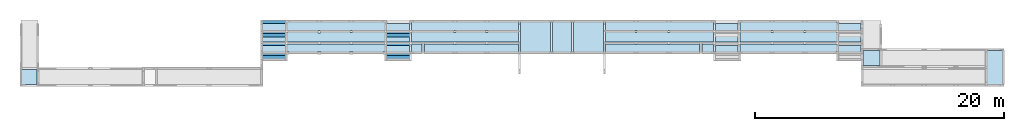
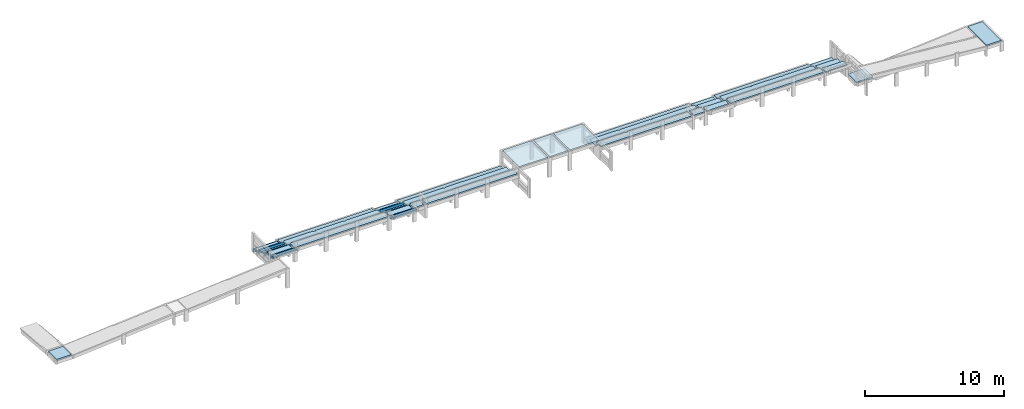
# One storey, part 8 of 9: 32 slabs, 7 stair flights.
"""IFC4 building model written with IfcOpenShell, lengths in centimetres."""

from ifc_helpers import new_model, si_unit, derived_unit, frame, origin_with_axes, place, context, project, spatial, polyline, outline, extrude, faceted_brep, material, element, save


model = new_model("IFC4")

# Units and contexts
model_context = context("Model", 3, precision=1e-05, world=origin_with_axes(), identifier="Body")
ifc_project = project(units=[si_unit("LENGTHUNIT", "METRE", prefix="CENTI"), si_unit("VOLUMEUNIT", "CUBIC_METRE"), si_unit("AREAUNIT", "SQUARE_METRE"), si_unit("POWERUNIT", "WATT"), si_unit("LUMINOUSFLUXUNIT", "LUMEN"), si_unit("ELECTRICCURRENTUNIT", "AMPERE"), si_unit("PRESSUREUNIT", "PASCAL", prefix="KILO"), si_unit("MASSUNIT", "GRAM", prefix="KILO"), si_unit("PLANEANGLEUNIT", "RADIAN"), derived_unit("VOLUMETRICFLOWRATEUNIT", [(si_unit("LENGTHUNIT", "METRE"), 3), (si_unit("TIMEUNIT", "SECOND"), -1)])], contexts=[model_context])

# Site, building, storey
site_placement = place(None, origin_with_axes())
site = spatial("IfcSite", under=ifc_project, at=site_placement)
building_placement = place(site_placement, frame((0.0, 0.0, -170.0)))
building = spatial("IfcBuilding", under=site, at=building_placement)
placement = place(building_placement, origin_with_axes())
storey_placement = place(placement, frame((0.0, 0.0, 170.0), z_axis=(0.0, 0.0, 1.0), x_axis=(1.0, 0.0, 0.0)))
storey = spatial("IfcBuildingStorey", under=building, at=storey_placement, Name="Arquibancada", CompositionType="ELEMENT", Elevation=0.0)

# Slabs
ifc_material = material(Name="Concreto")
slab_1_placement = place(storey_placement, frame((2202.0595, 258.0, 0.0), z_axis=(0.0, 0.0, 1.0), x_axis=(1.0, 0.0, 0.0)))
element("IfcSlab", 1, at=slab_1_placement, inside=storey, material=ifc_material, Name="L1", PredefinedType="FLOOR", context=model_context, shape_type="SolidModel", body=[
    extrude(outline(polyline([(121.499, 120.0), (-121.499, 120.0), (-121.5, -120.0), (121.499, -120.0), (121.499, 120.0), (121.499, 120.0)])), frame((0.0005, 0.0, -11.0), z_axis=(0.0, 0.0, 1.0), x_axis=(1.0, 0.0, 0.0)), (0.0, 0.0, 1.0), 11.0),
])
slab_2_placement = place(storey_placement, frame((2414.0595, 258.0, 0.0), z_axis=(0.0, 0.0, 1.0), x_axis=(1.0, 0.0, 0.0)))
element("IfcSlab", 2, at=slab_2_placement, inside=storey, material=ifc_material, Name="L2", PredefinedType="FLOOR", context=model_context, shape_type="SolidModel", body=[
    extrude(outline(polyline([(76.499, 120.0), (-76.5, 120.0), (-76.5, -120.0), (76.499, -120.0), (76.499, 120.0), (76.499, 120.0)])), frame((0.0005, 0.0, -11.0), z_axis=(0.0, 0.0, 1.0), x_axis=(1.0, 0.0, 0.0)), (0.0, 0.0, 1.0), 11.0),
])
slab_3_placement = place(storey_placement, frame((2626.06, 258.0, 0.0), z_axis=(0.0, 0.0, 1.0), x_axis=(1.0, 0.0, 0.0)))
element("IfcSlab", 3, at=slab_3_placement, inside=storey, material=ifc_material, Name="L3", PredefinedType="FLOOR", context=model_context, shape_type="SolidModel", body=[
    extrude(outline(polyline([(121.5, -120.0), (121.5, 120.0), (-121.5, 120.0), (-121.5, -120.0), (121.5, -120.0), (121.5, -120.0)])), frame((0.0, 0.0, -11.0), z_axis=(0.0, 0.0, 1.0), x_axis=(1.0, 0.0, 0.0)), (0.0, 0.0, 1.0), 11.0),
])
slab_4_placement = place(storey_placement, frame((3139.56, 170.5, -56.0), z_axis=(0.0, 0.0, 1.0), x_axis=(1.0, 0.0, 0.0)))
element("IfcSlab", 4, at=slab_4_placement, inside=storey, material=ifc_material, Name="LE10", PredefinedType="LANDING", context=model_context, shape_type="SolidModel", body=[
    extrude(outline(polyline([(378.0, 32.499), (139.889, 32.499), (139.889, 27.5), (120.889, 27.5), (120.889, 32.5), (-122.05, 32.5), (-122.049, 27.5), (-141.049, 27.5), (-141.05, 32.5), (-378.0, 32.499), (-378.0, -32.5), (377.999, -32.5), (378.0, 32.499), (378.0, 32.499)])), frame((0.0, 0.0, -11.0), z_axis=(0.0, 0.0, 1.0), x_axis=(1.0, 0.0, 0.0)), (0.0, 0.0, 1.0), 11.0),
])
slab_5_placement = place(storey_placement, frame((4895.6195, 89.5, -151.0), z_axis=(0.0, 0.0, 1.0), x_axis=(1.0, 0.0, 0.0)))
element("IfcSlab", 5, at=slab_5_placement, inside=storey, material=ifc_material, Name="LE12", PredefinedType="LANDING", context=model_context, shape_type="SolidModel", body=[
    extrude(outline(polyline([(68.499, 61.0), (-68.5, 61.0), (-68.5, -61.0), (68.499, -61.0), (68.499, 61.0), (68.499, 61.0)])), frame((0.0005, 0.0, -11.0), z_axis=(0.0, 0.0, 1.0), x_axis=(1.0, 0.0, 0.0)), (0.0, 0.0, 1.0), 11.0),
])
slab_6_placement = place(storey_placement, frame((105.5, 164.0, -56.0), z_axis=(0.0, 0.0, 1.0), x_axis=(1.0, 0.0, 0.0)))
element("IfcSlab", 6, at=slab_6_placement, inside=storey, material=ifc_material, Name="LE19", PredefinedType="LANDING", context=model_context, shape_type="SolidModel", body=[
    extrude(outline(polyline([(91.0, 26.0), (-91.0, 26.0), (-91.0, -26.0), (91.0, -26.0), (91.0, 26.0), (91.0, 26.0)])), frame((0.0, 0.0, -11.0), z_axis=(0.0, 0.0, 1.0), x_axis=(1.0, 0.0, 0.0)), (0.0, 0.0, 1.0), 11.0),
])
slab_7_placement = place(storey_placement, frame((-1856.0, -61.7495, -138.0), z_axis=(0.0, 0.0, 1.0), x_axis=(1.0, 0.0, 0.0)))
element("IfcSlab", 7, at=slab_7_placement, inside=storey, material=ifc_material, Name="LE2", PredefinedType="LANDING", context=model_context, shape_type="SolidModel", body=[
    extrude(outline(polyline([(61.5, 61.249534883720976), (-61.5, 61.249534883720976), (-61.5, -60.80046511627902), (61.5, -61.24946511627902), (61.5, 61.249534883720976), (61.5, 61.249534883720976)])), frame((0.0, -3.4883720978e-05, -11.0), z_axis=(0.0, 0.0, 1.0), x_axis=(1.0, 0.0, 0.0)), (0.0, 0.0, 1.0), 11.0),
])
slab_8_placement = place(storey_placement, frame((1100.0345, 164.0, -56.0), z_axis=(0.0, 0.0, 1.0), x_axis=(1.0, 0.0, 0.0)))
element("IfcSlab", 8, at=slab_8_placement, inside=storey, material=ifc_material, Name="LE21", PredefinedType="LANDING", context=model_context, shape_type="SolidModel", body=[
    extrude(outline(polyline([(91.504, 26.0), (-91.505, 26.0), (-91.505, -26.0), (91.504, -26.0), (91.504, 26.0), (91.504, 26.0)])), frame((0.0005, 0.0, -11.0), z_axis=(0.0, 0.0, 1.0), x_axis=(1.0, 0.0, 0.0)), (0.0, 0.0, 1.0), 11.0),
])
slab_9_placement = place(storey_placement, frame((3583.825, 170.5, -56.0), z_axis=(0.0, 0.0, 1.0), x_axis=(1.0, 0.0, 0.0)))
element("IfcSlab", 9, at=slab_9_placement, inside=storey, material=ifc_material, Name="LE23", PredefinedType="LANDING", context=model_context, shape_type="SolidModel", body=[
    extrude(outline(polyline([(46.264, -32.5), (46.265, 27.5), (41.265, 27.5), (41.264, 32.5), (-46.265, 32.5), (-46.265, -32.499), (46.264, -32.5), (46.264, -32.5)])), frame((0.0, 0.0, -11.0), z_axis=(0.0, 0.0, 1.0), x_axis=(1.0, 0.0, 0.0)), (0.0, 0.0, 1.0), 11.0),
])
slab_10_placement = place(storey_placement, frame((3735.5905, 164.0, -56.0), z_axis=(0.0, 0.0, 1.0), x_axis=(1.0, 0.0, 0.0)))
element("IfcSlab", 10, at=slab_10_placement, inside=storey, material=ifc_material, Name="LE24", PredefinedType="LANDING", context=model_context, shape_type="SolidModel", body=[
    extrude(outline(polyline([(91.5, 26.0), (-91.499, 26.0), (-91.499, -26.0), (91.5, -26.0), (91.5, 26.0), (91.5, 26.0)])), frame((-0.0005, 0.0, -11.0), z_axis=(0.0, 0.0, 1.0), x_axis=(1.0, 0.0, 0.0)), (0.0, 0.0, 1.0), 11.0),
])
slab_11_placement = place(storey_placement, frame((4229.355, 170.5, -56.0), z_axis=(0.0, 0.0, 1.0), x_axis=(1.0, 0.0, 0.0)))
element("IfcSlab", 11, at=slab_11_placement, inside=storey, material=ifc_material, Name="LE25", PredefinedType="LANDING", context=model_context, shape_type="SolidModel", body=[
    extrude(outline(polyline([(383.264, -30.0), (388.265, -30.0), (388.264, 27.5), (383.264, 27.5), (383.264, 32.5), (140.314, 32.5), (140.315, 27.5), (121.315, 27.5), (121.314, 32.499), (-121.315, 32.499), (-121.315, 27.5), (-140.315, 27.5), (-140.315, 32.5), (-383.265, 32.5), (-383.264, 27.5), (-388.264, 27.5), (-388.265, -32.5), (383.265, -32.5), (383.264, -30.0), (383.264, -30.0)])), frame((0.0, 0.0, -11.0), z_axis=(0.0, 0.0, 1.0), x_axis=(1.0, 0.0, 0.0)), (0.0, 0.0, 1.0), 11.0),
])
slab_12_placement = place(storey_placement, frame((4722.3695, 164.0645, -56.0), z_axis=(0.0, 0.0, 1.0), x_axis=(1.0, 0.0, 0.0)))
element("IfcSlab", 12, at=slab_12_placement, inside=storey, material=ifc_material, Name="LE26", PredefinedType="LANDING", context=model_context, shape_type="SolidModel", body=[
    extrude(outline(polyline([(90.749, 26.064), (-90.75, 26.064), (-90.749, -26.065), (90.749, -26.065), (90.749, 26.064), (90.749, 26.064)])), frame((0.0005, 0.0005, -11.0), z_axis=(0.0, 0.0, 1.0), x_axis=(1.0, 0.0, 0.0)), (0.0, 0.0, 1.0), 11.0),
])
slab_13_placement = place(storey_placement, frame((602.515, 170.5, -56.0), z_axis=(0.0, 0.0, 1.0), x_axis=(1.0, 0.0, 0.0)))
element("IfcSlab", 13, at=slab_13_placement, inside=storey, material=ifc_material, Name="LE29", PredefinedType="LANDING", context=model_context, shape_type="SolidModel", body=[
    extrude(outline(polyline([(392.014, -32.5), (392.015, 27.5), (387.015, 27.5), (387.014, 32.5), (131.125, 32.5), (131.125, 27.5), (112.124, 27.5), (112.125, 32.499), (-124.694, 32.499), (-124.695, 26.5), (-144.695, 26.5), (-144.694, 32.499), (-387.015, 32.5), (-387.015, 27.5), (-392.015, 27.5), (-392.015, -32.5), (392.014, -32.5), (392.014, -32.5)])), frame((0.0, 0.0, -11.0), z_axis=(0.0, 0.0, 1.0), x_axis=(1.0, 0.0, 0.0)), (0.0, 0.0, 1.0), 11.0),
])
slab_14_placement = place(storey_placement, frame((1248.0495, 170.5, -56.0), z_axis=(0.0, 0.0, 1.0), x_axis=(1.0, 0.0, 0.0)))
element("IfcSlab", 14, at=slab_14_placement, inside=storey, material=ifc_material, Name="LE30", PredefinedType="LANDING", context=model_context, shape_type="SolidModel", body=[
    extrude(outline(polyline([(42.509, -32.499), (42.509, 32.5), (-37.519, 32.5), (-37.52, 27.5), (-42.51, 27.5), (-42.509, -32.5), (42.509, -32.499), (42.509, -32.499)])), frame((0.0005, 0.0, -11.0), z_axis=(0.0, 0.0, 1.0), x_axis=(1.0, 0.0, 0.0)), (0.0, 0.0, 1.0), 11.0),
])
slab_15_placement = place(storey_placement, frame((105.5, 251.0, -94.0), z_axis=(0.0, 0.0, 1.0), x_axis=(1.0, 0.0, 0.0)))
element("IfcSlab", 15, at=slab_15_placement, inside=storey, material=ifc_material, Name="LE32", PredefinedType="LANDING", context=model_context, shape_type="SolidModel", body=[
    extrude(outline(polyline([(91.0, 34.0), (-91.0, 34.0), (-91.0, -34.0), (91.0, -34.0), (91.0, 34.0), (91.0, 34.0)])), frame((0.0, 0.0, -11.0), z_axis=(0.0, 0.0, 1.0), x_axis=(1.0, 0.0, 0.0)), (0.0, 0.0, 1.0), 11.0),
])
slab_16_placement = place(storey_placement, frame((1636.045, 257.5, -94.0), z_axis=(0.0, 0.0, 1.0), x_axis=(1.0, 0.0, 0.0)))
element("IfcSlab", 16, at=slab_16_placement, inside=storey, material=ifc_material, Name="LE35", PredefinedType="LANDING", context=model_context, shape_type="SolidModel", body=[
    extrude(outline(polyline([(430.514, 40.5), (183.695, 40.5), (183.695, 35.5), (164.695, 35.5), (164.695, 40.5), (-72.624, 40.499), (-72.624, 35.5), (-91.624, 35.5), (-91.624, 40.5), (-425.514, 40.499), (-425.515, 35.5), (-430.514, 35.5), (-430.514, -40.499), (430.514, -40.5), (430.514, 40.5), (430.514, 40.5)])), frame((0.0, 0.0, -11.0), z_axis=(0.0, 0.0, 1.0), x_axis=(1.0, 0.0, 0.0)), (0.0, 0.0, 1.0), 11.0),
])
slab_17_placement = place(storey_placement, frame((1100.0295, 251.0, -94.0), z_axis=(0.0, 0.0, 1.0), x_axis=(1.0, 0.0, 0.0)))
element("IfcSlab", 17, at=slab_17_placement, inside=storey, material=ifc_material, Name="LE36", PredefinedType="LANDING", context=model_context, shape_type="SolidModel", body=[
    extrude(outline(polyline([(91.499, 34.0), (-91.5, 34.0), (-91.5, -34.0), (91.499, -34.0), (91.499, 34.0), (91.499, 34.0)])), frame((0.0005, 0.0, -11.0), z_axis=(0.0, 0.0, 1.0), x_axis=(1.0, 0.0, 0.0)), (0.0, 0.0, 1.0), 11.0),
])
slab_18_placement = place(storey_placement, frame((4229.355, 257.5, -94.0), z_axis=(0.0, 0.0, 1.0), x_axis=(1.0, 0.0, 0.0)))
element("IfcSlab", 18, at=slab_18_placement, inside=storey, material=ifc_material, Name="LE37", PredefinedType="LANDING", context=model_context, shape_type="SolidModel", body=[
    extrude(outline(polyline([(388.265, -40.5), (388.265, 35.5), (383.264, 35.5), (383.265, 40.5), (140.314, 40.5), (140.315, 35.5), (121.315, 35.5), (121.314, 40.499), (-121.314, 40.5), (-121.315, 35.5), (-140.315, 35.5), (-140.314, 40.499), (-383.265, 40.5), (-383.264, 35.5), (-388.265, 35.5), (-388.264, -40.5), (388.265, -40.5), (388.265, -40.5)])), frame((0.0, 0.0, -11.0), z_axis=(0.0, 0.0, 1.0), x_axis=(1.0, 0.0, 0.0)), (0.0, 0.0, 1.0), 11.0),
])
slab_19_placement = place(storey_placement, frame((3195.825, 257.5, -94.0), z_axis=(0.0, 0.0, 1.0), x_axis=(1.0, 0.0, 0.0)))
element("IfcSlab", 19, at=slab_19_placement, inside=storey, material=ifc_material, Name="LE38", PredefinedType="LANDING", context=model_context, shape_type="SolidModel", body=[
    extrude(outline(polyline([(434.265, 35.5), (429.265, 35.5), (429.264, 40.499), (83.624, 40.5), (83.624, 35.5), (64.624, 35.5), (64.624, 40.5), (-178.314, 40.499), (-178.314, 35.5), (-197.314, 35.5), (-197.314, 40.5), (-434.265, 40.5), (-434.265, -40.5), (434.265, -40.5), (434.265, 35.5), (434.265, 35.5)])), frame((0.0, 0.0, -11.0), z_axis=(0.0, 0.0, 1.0), x_axis=(1.0, 0.0, 0.0)), (0.0, 0.0, 1.0), 11.0),
])
slab_20_placement = place(storey_placement, frame((3735.5905, 251.0, -94.0), z_axis=(0.0, 0.0, 1.0), x_axis=(1.0, 0.0, 0.0)))
element("IfcSlab", 20, at=slab_20_placement, inside=storey, material=ifc_material, Name="LE39", PredefinedType="LANDING", context=model_context, shape_type="SolidModel", body=[
    extrude(outline(polyline([(91.5, 34.0), (-91.499, 34.0), (-91.499, -34.0), (91.5, -34.0), (91.5, 34.0), (91.5, 34.0)])), frame((-0.0005, 0.0, -11.0), z_axis=(0.0, 0.0, 1.0), x_axis=(1.0, 0.0, 0.0)), (0.0, 0.0, 1.0), 11.0),
])
slab_21_placement = place(storey_placement, frame((4722.3695, 251.0, -94.0), z_axis=(0.0, 0.0, 1.0), x_axis=(1.0, 0.0, 0.0)))
element("IfcSlab", 21, at=slab_21_placement, inside=storey, material=ifc_material, Name="LE40", PredefinedType="LANDING", context=model_context, shape_type="SolidModel", body=[
    extrude(outline(polyline([(90.749, 34.0), (-90.75, 34.0), (-90.75, -34.0), (90.749, -34.0), (90.749, 34.0), (90.749, 34.0)])), frame((0.0005, 0.0, -11.0), z_axis=(0.0, 0.0, 1.0), x_axis=(1.0, 0.0, 0.0)), (0.0, 0.0, 1.0), 11.0),
])
slab_22_placement = place(storey_placement, frame((3195.8255, 345.0, -132.0), z_axis=(0.0, 0.0, 1.0), x_axis=(1.0, 0.0, 0.0)))
element("IfcSlab", 22, at=slab_22_placement, inside=storey, material=ifc_material, Name="LE44", PredefinedType="LANDING", context=model_context, shape_type="SolidModel", body=[
    extrude(outline(polyline([(434.265, -33.0), (434.264, 33.0), (-434.264, 32.999), (-434.264, -32.999), (434.265, -33.0), (434.265, -33.0)])), frame((-0.0005, 0.0, -11.0), z_axis=(0.0, 0.0, 1.0), x_axis=(1.0, 0.0, 0.0)), (0.0, 0.0, 1.0), 11.0),
])
slab_23_placement = place(storey_placement, frame((4229.3545, 345.0, -132.0), z_axis=(0.0, 0.0, 1.0), x_axis=(1.0, 0.0, 0.0)))
element("IfcSlab", 23, at=slab_23_placement, inside=storey, material=ifc_material, Name="LE46", PredefinedType="LANDING", context=model_context, shape_type="SolidModel", body=[
    extrude(outline(polyline([(388.264, 30.5), (383.264, 30.5), (383.264, 32.999), (-388.265, 33.0), (-388.264, -33.0), (388.264, -33.0), (388.264, 30.5), (388.264, 30.5)])), frame((0.0005, 0.0, -11.0), z_axis=(0.0, 0.0, 1.0), x_axis=(1.0, 0.0, 0.0)), (0.0, 0.0, 1.0), 11.0),
])
slab_24_placement = place(storey_placement, frame((602.515, 345.0, -132.0), z_axis=(0.0, 0.0, 1.0), x_axis=(1.0, 0.0, 0.0)))
element("IfcSlab", 24, at=slab_24_placement, inside=storey, material=ifc_material, Name="LE47", PredefinedType="LANDING", context=model_context, shape_type="SolidModel", body=[
    extrude(outline(polyline([(392.015, -33.0), (392.014, 33.0), (-392.015, 33.0), (-392.015, -33.0), (392.015, -33.0), (392.015, -33.0)])), frame((0.0, 0.0, -11.0), z_axis=(0.0, 0.0, 1.0), x_axis=(1.0, 0.0, 0.0)), (0.0, 0.0, 1.0), 11.0),
])
slab_25_placement = place(storey_placement, frame((1636.045, 345.0, -132.0), z_axis=(0.0, 0.0, 1.0), x_axis=(1.0, 0.0, 0.0)))
element("IfcSlab", 25, at=slab_25_placement, inside=storey, material=ifc_material, Name="LE49", PredefinedType="LANDING", context=model_context, shape_type="SolidModel", body=[
    extrude(outline(polyline([(430.515, -33.0), (430.515, 32.999), (-430.515, 33.0), (-430.515, -33.0), (430.515, -33.0), (430.515, -33.0)])), frame((0.0, 0.0, -11.0), z_axis=(0.0, 0.0, 1.0), x_axis=(1.0, 0.0, 0.0)), (0.0, 0.0, 1.0), 11.0),
])
slab_26_placement = place(storey_placement, frame((602.515, 257.5, -94.0), z_axis=(0.0, 0.0, 1.0), x_axis=(1.0, 0.0, 0.0)))
element("IfcSlab", 26, at=slab_26_placement, inside=storey, material=ifc_material, Name="LE5", PredefinedType="LANDING", context=model_context, shape_type="SolidModel", body=[
    extrude(outline(polyline([(392.015, 35.5), (387.015, 35.5), (387.015, 40.5), (131.125, 40.5), (131.125, 35.5), (112.124, 35.5), (112.125, 40.5), (-124.695, 40.5), (-124.695, 34.5), (-144.695, 34.5), (-144.695, 40.499), (-387.015, 40.5), (-387.015, 35.5), (-392.015, 35.5), (-392.015, -40.5), (392.015, -40.5), (392.015, 35.5), (392.015, 35.5)])), frame((0.0, 0.0, -11.0), z_axis=(0.0, 0.0, 1.0), x_axis=(1.0, 0.0, 0.0)), (0.0, 0.0, 1.0), 11.0),
])
slab_27_placement = place(storey_placement, frame((105.5, 338.5, -132.0), z_axis=(0.0, 0.0, 1.0), x_axis=(1.0, 0.0, 0.0)))
element("IfcSlab", 27, at=slab_27_placement, inside=storey, material=ifc_material, Name="LE50", PredefinedType="LANDING", context=model_context, shape_type="SolidModel", body=[
    extrude(outline(polyline([(91.0, 26.5), (-91.0, 26.5), (-91.0, -26.5), (91.0, -26.5), (91.0, 26.5), (91.0, 26.5)])), frame((0.0, 0.0, -11.0), z_axis=(0.0, 0.0, 1.0), x_axis=(1.0, 0.0, 0.0)), (0.0, 0.0, 1.0), 11.0),
])
slab_28_placement = place(storey_placement, frame((1100.0295, 338.5, -132.0), z_axis=(0.0, 0.0, 1.0), x_axis=(1.0, 0.0, 0.0)))
element("IfcSlab", 28, at=slab_28_placement, inside=storey, material=ifc_material, Name="LE52", PredefinedType="LANDING", context=model_context, shape_type="SolidModel", body=[
    extrude(outline(polyline([(91.499, 26.5), (-91.5, 26.5), (-91.5, -26.5), (91.499, -26.5), (91.499, 26.5), (91.499, 26.5)])), frame((0.0005, 0.0, -11.0), z_axis=(0.0, 0.0, 1.0), x_axis=(1.0, 0.0, 0.0)), (0.0, 0.0, 1.0), 11.0),
])
slab_29_placement = place(storey_placement, frame((3735.5905, 338.5, -132.0), z_axis=(0.0, 0.0, 1.0), x_axis=(1.0, 0.0, 0.0)))
element("IfcSlab", 29, at=slab_29_placement, inside=storey, material=ifc_material, Name="LE54", PredefinedType="LANDING", context=model_context, shape_type="SolidModel", body=[
    extrude(outline(polyline([(91.5, 26.5), (-91.499, 26.5), (-91.499, -26.5), (91.5, -26.5), (91.5, 26.5), (91.5, 26.5)])), frame((-0.0005, 0.0, -11.0), z_axis=(0.0, 0.0, 1.0), x_axis=(1.0, 0.0, 0.0)), (0.0, 0.0, 1.0), 11.0),
])
slab_30_placement = place(storey_placement, frame((4722.37, 338.5, -132.0), z_axis=(0.0, 0.0, 1.0), x_axis=(1.0, 0.0, 0.0)))
element("IfcSlab", 30, at=slab_30_placement, inside=storey, material=ifc_material, Name="LE56", PredefinedType="LANDING", context=model_context, shape_type="SolidModel", body=[
    extrude(outline(polyline([(90.749, -26.5), (90.75, 26.5), (-90.75, 26.5), (-90.75, -26.5), (90.749, -26.5), (90.749, -26.5)])), frame((0.0, 0.0, -11.0), z_axis=(0.0, 0.0, 1.0), x_axis=(1.0, 0.0, 0.0)), (0.0, 0.0, 1.0), 11.0),
])
slab_31_placement = place(storey_placement, frame((5883.1195, 14.0, -82.0), z_axis=(0.0, 0.0, 1.0), x_axis=(1.0, 0.0, 0.0)))
element("IfcSlab", 31, at=slab_31_placement, inside=storey, material=ifc_material, Name="LE7", PredefinedType="LANDING", context=model_context, shape_type="SolidModel", body=[
    extrude(outline(polyline([(60.999, 136.5), (-61.0, 136.5), (-61.0, -136.5), (60.999, -136.5), (60.999, 136.5), (60.999, 136.5)])), frame((0.0005, 0.0, -12.0), z_axis=(0.0, 0.0, 1.0), x_axis=(1.0, 0.0, 0.0)), (0.0, 0.0, 1.0), 12.0),
])
slab_32_placement = place(storey_placement, frame((1688.5595, 170.5, -56.0), z_axis=(0.0, 0.0, 1.0), x_axis=(1.0, 0.0, 0.0)))
element("IfcSlab", 32, at=slab_32_placement, inside=storey, material=ifc_material, Name="LE9", PredefinedType="LANDING", context=model_context, shape_type="SolidModel", body=[
    extrude(outline(polyline([(377.999, 32.499), (131.179, 32.499), (131.18, 27.5), (112.18, 27.5), (112.179, 32.5), (-125.14, 32.5), (-125.139, 27.5), (-144.139, 27.5), (-144.14, 32.499), (-378.0, 32.5), (-378.0, -32.499), (377.999, -32.5), (377.999, 32.499), (377.999, 32.499)])), frame((0.0005, 0.0, -11.0), z_axis=(0.0, 0.0, 1.0), x_axis=(1.0, 0.0, 0.0)), (0.0, 0.0, 1.0), 11.0),
])

# Stair flights
stair_flight_1_placement = place(storey_placement, frame((105.5, 110.0, -36.0), z_axis=(0.0, 0.0, 1.0), x_axis=(1.0, 0.0, 0.0)))
element("IfcStairFlight", 33, at=stair_flight_1_placement, inside=storey, material=ifc_material, Name="LE14", NumberOfRisers=0, NumberOfTreads=0, context=model_context, shape_type="Brep", body=[
    faceted_brep([(98.0, -27.0, 0.0), (98.0, 0.0, 0.0), (-98.0, 0.0, 0.0), (-98.0, -27.0, 0.0), (98.0, 0.0, -29.99878647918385), (98.0, -27.0, -12.998786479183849), (-98.0, -27.0, -12.998786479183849), (-98.0, 0.0, -29.99878647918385), (98.0, -27.0, -12.998786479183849), (98.0, -27.0, 0.0), (-98.0, -27.0, 0.0), (-98.0, -27.0, -12.998786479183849), (98.0, 0.0, 0.0), (98.0, 0.0, -29.99878647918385), (-98.0, 0.0, -29.99878647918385), (-98.0, 0.0, 0.0), (-98.0, 0.0, -29.99878647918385), (-98.0, -27.0, -12.998786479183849), (-98.0, -27.0, 0.0), (-98.0, 0.0, 0.0), (98.0, 0.0, -29.99878647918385), (98.0, 0.0, 0.0), (98.0, -27.0, 0.0), (98.0, -27.0, -12.998786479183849), (98.0, 0.0, -17.0), (98.0, 27.0, -17.0), (-98.0, 27.0, -17.0), (-98.0, 0.0, -17.0), (98.0, 27.0, -46.369156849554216), (98.0, 0.0, -29.99878647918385), (-98.0, 0.0, -29.99878647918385), (-98.0, 27.0, -46.369156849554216), (98.0, 0.0, -29.99878647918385), (98.0, 0.0, -17.0), (-98.0, 0.0, -17.0), (-98.0, 0.0, -29.99878647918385), (98.0, 27.0, -17.0), (98.0, 27.0, -46.369156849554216), (-98.0, 27.0, -46.369156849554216), (-98.0, 27.0, -17.0), (-98.0, 27.0, -46.369156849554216), (-98.0, 0.0, -29.99878647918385), (-98.0, 0.0, -17.0), (-98.0, 27.0, -17.0), (98.0, 27.0, -46.369156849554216), (98.0, 27.0, -17.0), (98.0, 0.0, -17.0), (98.0, 0.0, -29.99878647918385)], [[[0, 1, 2, 3]], [[4, 5, 6, 7]], [[8, 9, 10, 11]], [[12, 13, 14, 15]], [[16, 17, 18, 19]], [[20, 21, 22, 23]], [[24, 25, 26, 27]], [[28, 29, 30, 31]], [[32, 33, 34, 35]], [[36, 37, 38, 39]], [[40, 41, 42, 43]], [[44, 45, 46, 47]]]),
])
stair_flight_2_placement = place(storey_placement, frame((1100.035, 110.0, -36.0), z_axis=(0.0, 0.0, 1.0), x_axis=(1.0, 0.0, 0.0)))
element("IfcStairFlight", 34, at=stair_flight_2_placement, inside=storey, material=ifc_material, Name="LE15", NumberOfRisers=0, NumberOfTreads=0, context=model_context, shape_type="Brep", body=[
    faceted_brep([(98.505, -27.0, 0.0), (98.505, 0.0, 0.0), (-98.505, 0.0, 0.0), (-98.505, -27.0, 0.0), (98.505, 0.0, -29.99878647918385), (98.505, -27.0, -12.998786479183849), (-98.505, -27.0, -12.998786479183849), (-98.505, 0.0, -29.99878647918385), (98.505, -27.0, -12.998786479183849), (98.505, -27.0, 0.0), (-98.505, -27.0, 0.0), (-98.505, -27.0, -12.998786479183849), (98.505, 0.0, 0.0), (98.505, 0.0, -29.99878647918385), (-98.505, 0.0, -29.99878647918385), (-98.505, 0.0, 0.0), (-98.505, 0.0, -29.99878647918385), (-98.505, -27.0, -12.998786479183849), (-98.505, -27.0, 0.0), (-98.505, 0.0, 0.0), (98.505, 0.0, -29.99878647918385), (98.505, 0.0, 0.0), (98.505, -27.0, 0.0), (98.505, -27.0, -12.998786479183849), (98.505, 0.0, -17.0), (98.505, 27.0, -17.0), (-98.505, 27.0, -17.0), (-98.505, 0.0, -17.0), (98.505, 27.0, -46.369156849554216), (98.505, 0.0, -29.99878647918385), (-98.505, 0.0, -29.99878647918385), (-98.505, 27.0, -46.369156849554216), (98.505, 0.0, -29.99878647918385), (98.505, 0.0, -17.0), (-98.505, 0.0, -17.0), (-98.505, 0.0, -29.99878647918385), (98.505, 27.0, -17.0), (98.505, 27.0, -46.369156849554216), (-98.505, 27.0, -46.369156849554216), (-98.505, 27.0, -17.0), (-98.505, 27.0, -46.369156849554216), (-98.505, 0.0, -29.99878647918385), (-98.505, 0.0, -17.0), (-98.505, 27.0, -17.0), (98.505, 27.0, -46.369156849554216), (98.505, 27.0, -17.0), (98.505, 0.0, -17.0), (98.505, 0.0, -29.99878647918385)], [[[0, 1, 2, 3]], [[4, 5, 6, 7]], [[8, 9, 10, 11]], [[12, 13, 14, 15]], [[16, 17, 18, 19]], [[20, 21, 22, 23]], [[24, 25, 26, 27]], [[28, 29, 30, 31]], [[32, 33, 34, 35]], [[36, 37, 38, 39]], [[40, 41, 42, 43]], [[44, 45, 46, 47]]]),
])
stair_flight_3_placement = place(storey_placement, frame((105.5, 190.0, -56.0), z_axis=(0.0, 0.0, 1.0), x_axis=(1.0, 0.0, 0.0)))
element("IfcStairFlight", 35, at=stair_flight_3_placement, inside=storey, material=ifc_material, Name="LE20", NumberOfRisers=0, NumberOfTreads=0, context=model_context, shape_type="Brep", body=[
    faceted_brep([(98.0, -27.0, 0.0), (98.0, 0.0, 0.0), (-98.0, 0.0, 0.0), (-98.0, -27.0, 0.0), (98.0, 0.0, -29.99878647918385), (98.0, -27.0, -12.998786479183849), (-98.0, -27.0, -12.998786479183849), (-98.0, 0.0, -29.99878647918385), (98.0, -27.0, -12.998786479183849), (98.0, -27.0, 0.0), (-98.0, -27.0, 0.0), (-98.0, -27.0, -12.998786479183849), (98.0, 0.0, 0.0), (98.0, 0.0, -29.99878647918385), (-98.0, 0.0, -29.99878647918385), (-98.0, 0.0, 0.0), (-98.0, 0.0, -29.99878647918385), (-98.0, -27.0, -12.998786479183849), (-98.0, -27.0, 0.0), (-98.0, 0.0, 0.0), (98.0, 0.0, -29.99878647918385), (98.0, 0.0, 0.0), (98.0, -27.0, 0.0), (98.0, -27.0, -12.998786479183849), (98.0, 0.0, -17.0), (98.0, 27.0, -17.0), (-98.0, 27.0, -17.0), (-98.0, 0.0, -17.0), (98.0, 27.0, -46.99878647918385), (98.0, 0.0, -29.99878647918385), (-98.0, 0.0, -29.99878647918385), (-98.0, 27.0, -46.99878647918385), (98.0, 0.0, -29.99878647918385), (98.0, 0.0, -17.0), (-98.0, 0.0, -17.0), (-98.0, 0.0, -29.99878647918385), (98.0, 27.0, -17.0), (98.0, 27.0, -46.99878647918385), (-98.0, 27.0, -46.99878647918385), (-98.0, 27.0, -17.0), (-98.0, 27.0, -46.99878647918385), (-98.0, 0.0, -29.99878647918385), (-98.0, 0.0, -17.0), (-98.0, 27.0, -17.0), (98.0, 27.0, -46.99878647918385), (98.0, 27.0, -17.0), (98.0, 0.0, -17.0), (98.0, 0.0, -29.99878647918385)], [[[0, 1, 2, 3]], [[4, 5, 6, 7]], [[8, 9, 10, 11]], [[12, 13, 14, 15]], [[16, 17, 18, 19]], [[20, 21, 22, 23]], [[24, 25, 26, 27]], [[28, 29, 30, 31]], [[32, 33, 34, 35]], [[36, 37, 38, 39]], [[40, 41, 42, 43]], [[44, 45, 46, 47]]]),
])
stair_flight_4_placement = place(storey_placement, frame((1100.035, 190.0, -56.0), z_axis=(0.0, 0.0, 1.0), x_axis=(1.0, 0.0, 0.0)))
element("IfcStairFlight", 36, at=stair_flight_4_placement, inside=storey, material=ifc_material, Name="LE22", NumberOfRisers=0, NumberOfTreads=0, context=model_context, shape_type="Brep", body=[
    faceted_brep([(98.505, -27.0, 0.0), (98.505, 0.0, 0.0), (-98.505, 0.0, 0.0), (-98.505, -27.0, 0.0), (98.505, 0.0, -29.99878647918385), (98.505, -27.0, -12.998786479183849), (-98.505, -27.0, -12.998786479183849), (-98.505, 0.0, -29.99878647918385), (98.505, -27.0, -12.998786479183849), (98.505, -27.0, 0.0), (-98.505, -27.0, 0.0), (-98.505, -27.0, -12.998786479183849), (98.505, 0.0, 0.0), (98.505, 0.0, -29.99878647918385), (-98.505, 0.0, -29.99878647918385), (-98.505, 0.0, 0.0), (-98.505, 0.0, -29.99878647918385), (-98.505, -27.0, -12.998786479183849), (-98.505, -27.0, 0.0), (-98.505, 0.0, 0.0), (98.505, 0.0, -29.99878647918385), (98.505, 0.0, 0.0), (98.505, -27.0, 0.0), (98.505, -27.0, -12.998786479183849), (98.505, 0.0, -17.0), (98.505, 27.0, -17.0), (-98.505, 27.0, -17.0), (-98.505, 0.0, -17.0), (98.505, 27.0, -46.998786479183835), (98.505, 0.0, -29.99878647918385), (-98.505, 0.0, -29.99878647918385), (-98.505, 27.0, -46.998786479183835), (98.505, 0.0, -29.99878647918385), (98.505, 0.0, -17.0), (-98.505, 0.0, -17.0), (-98.505, 0.0, -29.99878647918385), (98.505, 27.0, -17.0), (98.505, 27.0, -46.998786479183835), (-98.505, 27.0, -46.998786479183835), (-98.505, 27.0, -17.0), (-98.505, 27.0, -46.998786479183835), (-98.505, 0.0, -29.99878647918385), (-98.505, 0.0, -17.0), (-98.505, 27.0, -17.0), (98.505, 27.0, -46.998786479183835), (98.505, 27.0, -17.0), (98.505, 0.0, -17.0), (98.505, 0.0, -29.99878647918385)], [[[0, 1, 2, 3]], [[4, 5, 6, 7]], [[8, 9, 10, 11]], [[12, 13, 14, 15]], [[16, 17, 18, 19]], [[20, 21, 22, 23]], [[24, 25, 26, 27]], [[28, 29, 30, 31]], [[32, 33, 34, 35]], [[36, 37, 38, 39]], [[40, 41, 42, 43]], [[44, 45, 46, 47]]]),
])
stair_flight_5_placement = place(storey_placement, frame((105.5, 285.0, -94.0), z_axis=(0.0, 0.0, 1.0), x_axis=(1.0, 0.0, 0.0)))
element("IfcStairFlight", 37, at=stair_flight_5_placement, inside=storey, material=ifc_material, Name="LE33", NumberOfRisers=0, NumberOfTreads=0, context=model_context, shape_type="Brep", body=[
    faceted_brep([(98.0, -27.0, 0.0), (98.0, 0.0, 0.0), (-98.0, 0.0, 0.0), (-98.0, -27.0, 0.0), (98.0, 0.0, -29.99878647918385), (98.0, -27.0, -12.998786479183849), (-98.0, -27.0, -12.998786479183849), (-98.0, 0.0, -29.99878647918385), (98.0, -27.0, -12.998786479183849), (98.0, -27.0, 0.0), (-98.0, -27.0, 0.0), (-98.0, -27.0, -12.998786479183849), (98.0, 0.0, 0.0), (98.0, 0.0, -29.99878647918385), (-98.0, 0.0, -29.99878647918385), (-98.0, 0.0, 0.0), (-98.0, 0.0, -29.99878647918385), (-98.0, -27.0, -12.998786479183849), (-98.0, -27.0, 0.0), (-98.0, 0.0, 0.0), (98.0, 0.0, -29.99878647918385), (98.0, 0.0, 0.0), (98.0, -27.0, 0.0), (98.0, -27.0, -12.998786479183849), (98.0, 0.0, -17.0), (98.0, 27.0, -17.0), (-98.0, 27.0, -17.0), (-98.0, 0.0, -17.0), (98.0, 27.0, -46.99878647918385), (98.0, 0.0, -29.99878647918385), (-98.0, 0.0, -29.99878647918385), (-98.0, 27.0, -46.99878647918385), (98.0, 0.0, -29.99878647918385), (98.0, 0.0, -17.0), (-98.0, 0.0, -17.0), (-98.0, 0.0, -29.99878647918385), (98.0, 27.0, -17.0), (98.0, 27.0, -46.99878647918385), (-98.0, 27.0, -46.99878647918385), (-98.0, 27.0, -17.0), (-98.0, 27.0, -46.99878647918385), (-98.0, 0.0, -29.99878647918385), (-98.0, 0.0, -17.0), (-98.0, 27.0, -17.0), (98.0, 27.0, -46.99878647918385), (98.0, 27.0, -17.0), (98.0, 0.0, -17.0), (98.0, 0.0, -29.99878647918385)], [[[0, 1, 2, 3]], [[4, 5, 6, 7]], [[8, 9, 10, 11]], [[12, 13, 14, 15]], [[16, 17, 18, 19]], [[20, 21, 22, 23]], [[24, 25, 26, 27]], [[28, 29, 30, 31]], [[32, 33, 34, 35]], [[36, 37, 38, 39]], [[40, 41, 42, 43]], [[44, 45, 46, 47]]]),
])
stair_flight_6_placement = place(storey_placement, frame((1100.03, 285.0, -94.0), z_axis=(0.0, 0.0, 1.0), x_axis=(1.0, 0.0, 0.0)))
element("IfcStairFlight", 38, at=stair_flight_6_placement, inside=storey, material=ifc_material, Name="LE43", NumberOfRisers=0, NumberOfTreads=0, context=model_context, shape_type="Brep", body=[
    faceted_brep([(98.5, -27.0, 0.0), (98.5, 0.0, 0.0), (-98.5, 0.0, 0.0), (-98.5, -27.0, 0.0), (98.5, 0.0, -29.99878647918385), (98.5, -27.0, -12.998786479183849), (-98.5, -27.0, -12.998786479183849), (-98.5, 0.0, -29.99878647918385), (98.5, -27.0, -12.998786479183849), (98.5, -27.0, 0.0), (-98.5, -27.0, 0.0), (-98.5, -27.0, -12.998786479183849), (98.5, 0.0, 0.0), (98.5, 0.0, -29.99878647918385), (-98.5, 0.0, -29.99878647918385), (-98.5, 0.0, 0.0), (-98.5, 0.0, -29.99878647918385), (-98.5, -27.0, -12.998786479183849), (-98.5, -27.0, 0.0), (-98.5, 0.0, 0.0), (98.5, 0.0, -29.99878647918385), (98.5, 0.0, 0.0), (98.5, -27.0, 0.0), (98.5, -27.0, -12.998786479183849), (98.5, 0.0, -17.0), (98.5, 27.0, -17.0), (-98.5, 27.0, -17.0), (-98.5, 0.0, -17.0), (98.5, 27.0, -46.99878647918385), (98.5, 0.0, -29.99878647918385), (-98.5, 0.0, -29.99878647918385), (-98.5, 27.0, -46.99878647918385), (98.5, 0.0, -29.99878647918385), (98.5, 0.0, -17.0), (-98.5, 0.0, -17.0), (-98.5, 0.0, -29.99878647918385), (98.5, 27.0, -17.0), (98.5, 27.0, -46.99878647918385), (-98.5, 27.0, -46.99878647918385), (-98.5, 27.0, -17.0), (-98.5, 27.0, -46.99878647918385), (-98.5, 0.0, -29.99878647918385), (-98.5, 0.0, -17.0), (-98.5, 27.0, -17.0), (98.5, 27.0, -46.99878647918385), (98.5, 27.0, -17.0), (98.5, 0.0, -17.0), (98.5, 0.0, -29.99878647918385)], [[[0, 1, 2, 3]], [[4, 5, 6, 7]], [[8, 9, 10, 11]], [[12, 13, 14, 15]], [[16, 17, 18, 19]], [[20, 21, 22, 23]], [[24, 25, 26, 27]], [[28, 29, 30, 31]], [[32, 33, 34, 35]], [[36, 37, 38, 39]], [[40, 41, 42, 43]], [[44, 45, 46, 47]]]),
])
stair_flight_7_placement = place(storey_placement, frame((105.5, 365.0, -132.0), z_axis=(0.0, 0.0, 1.0), x_axis=(1.0, 0.0, 0.0)))
element("IfcStairFlight", 39, at=stair_flight_7_placement, inside=storey, material=ifc_material, Name="LE51", NumberOfRisers=0, NumberOfTreads=0, context=model_context, shape_type="Brep", body=[
    faceted_brep([(98.0, -27.0, 0.0), (98.0, 0.0, 0.0), (-98.0, 0.0, 0.0), (-98.0, -27.0, 0.0), (98.0, 0.0, -29.99878647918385), (98.0, -27.0, -12.998786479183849), (-98.0, -27.0, -12.998786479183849), (-98.0, 0.0, -29.99878647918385), (98.0, -27.0, -12.998786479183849), (98.0, -27.0, 0.0), (-98.0, -27.0, 0.0), (-98.0, -27.0, -12.998786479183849), (98.0, 0.0, 0.0), (98.0, 0.0, -29.99878647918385), (-98.0, 0.0, -29.99878647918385), (-98.0, 0.0, 0.0), (-98.0, 0.0, -29.99878647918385), (-98.0, -27.0, -12.998786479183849), (-98.0, -27.0, 0.0), (-98.0, 0.0, 0.0), (98.0, 0.0, -29.99878647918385), (98.0, 0.0, 0.0), (98.0, -27.0, 0.0), (98.0, -27.0, -12.998786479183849), (98.0, 0.0, -17.0), (98.0, 27.0, -17.0), (-98.0, 27.0, -17.0), (-98.0, 0.0, -17.0), (98.0, 27.0, -46.99878647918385), (98.0, 0.0, -29.99878647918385), (-98.0, 0.0, -29.99878647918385), (-98.0, 27.0, -46.99878647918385), (98.0, 0.0, -29.99878647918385), (98.0, 0.0, -17.0), (-98.0, 0.0, -17.0), (-98.0, 0.0, -29.99878647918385), (98.0, 27.0, -17.0), (98.0, 27.0, -46.99878647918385), (-98.0, 27.0, -46.99878647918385), (-98.0, 27.0, -17.0), (-98.0, 27.0, -46.99878647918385), (-98.0, 0.0, -29.99878647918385), (-98.0, 0.0, -17.0), (-98.0, 27.0, -17.0), (98.0, 27.0, -46.99878647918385), (98.0, 27.0, -17.0), (98.0, 0.0, -17.0), (98.0, 0.0, -29.99878647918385)], [[[0, 1, 2, 3]], [[4, 5, 6, 7]], [[8, 9, 10, 11]], [[12, 13, 14, 15]], [[16, 17, 18, 19]], [[20, 21, 22, 23]], [[24, 25, 26, 27]], [[28, 29, 30, 31]], [[32, 33, 34, 35]], [[36, 37, 38, 39]], [[40, 41, 42, 43]], [[44, 45, 46, 47]]]),
])

save(model, "model.ifc")
